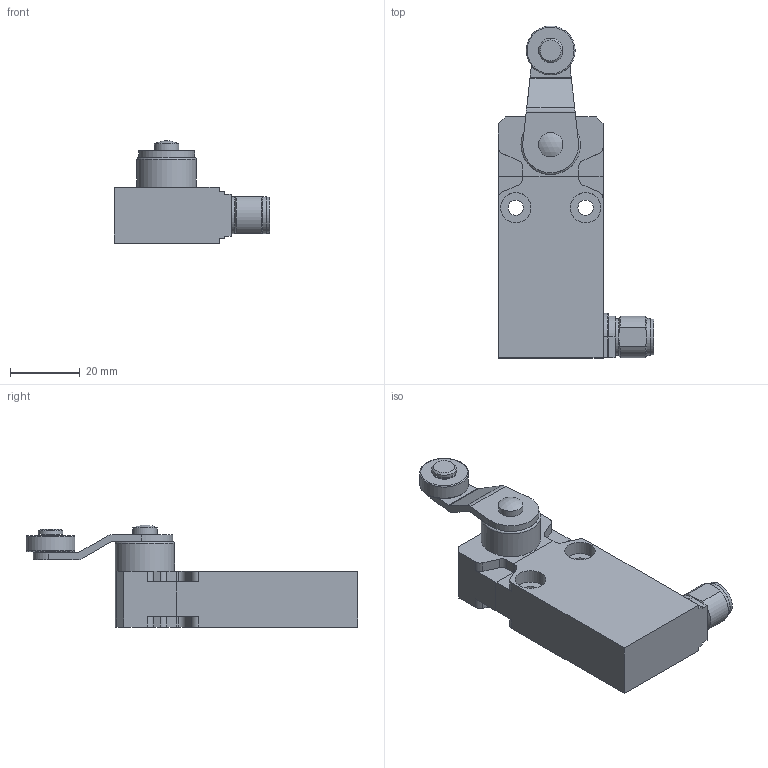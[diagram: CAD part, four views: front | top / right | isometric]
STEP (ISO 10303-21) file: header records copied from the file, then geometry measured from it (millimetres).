
FILE_DESCRIPTION(/* description */ (''),/* implementation_level */ '2;1');
FILE_NAME(/* name */ 'C:\Users\servizio.tecnico\Desktop\CADENAS\3D\EP1_STP\STP_EP1_G41M.stp',/* time_stamp */ '2017-09-04T11:41:50+02:00',/* author */ ('servizio.tecnico'),/* organization */ (''),/* preprocessor_version */ 'ST-DEVELOPER v16.1',/* originating_system */ 'Autodesk Inventor 2016',/* authorisation */ '');
FILE_SCHEMA (('AUTOMOTIVE_DESIGN { 1 0 10303 214 3 1 1 }'));
Length unit declared in the file: millimetre
Products named in the file (3): Product; EP1G41-M; BASE ASSI 
Assembly tree (2 placements, depth 3):
  BASE ASSI 
    EP1G41-M
      Product
Bounding box: 44.5 x 95 x 29.28 mm (x, y, z)
Volume: 35941.2 mm3; surface area: 11832.1 mm2
Topology: 4 solids, 4 shells, 133 faces, 328 edges, 216 vertices
Faces by surface type: plane 74, cylinder 49, cone 5, torus 4, sphere 1
Full cylindrical faces by diameter (mm): 4.4 x2, 5 x2, 7 x4, 8.7 x4, 10.3 x1, 10.6 x2, 14 x1, 17 x1
Entity records: 3936 total; most frequent: DIRECTION 676, CARTESIAN_POINT 667, ORIENTED_EDGE 604, EDGE_CURVE 302, AXIS2_PLACEMENT_3D 244, VERTEX_POINT 211, LINE 188, VECTOR 188
